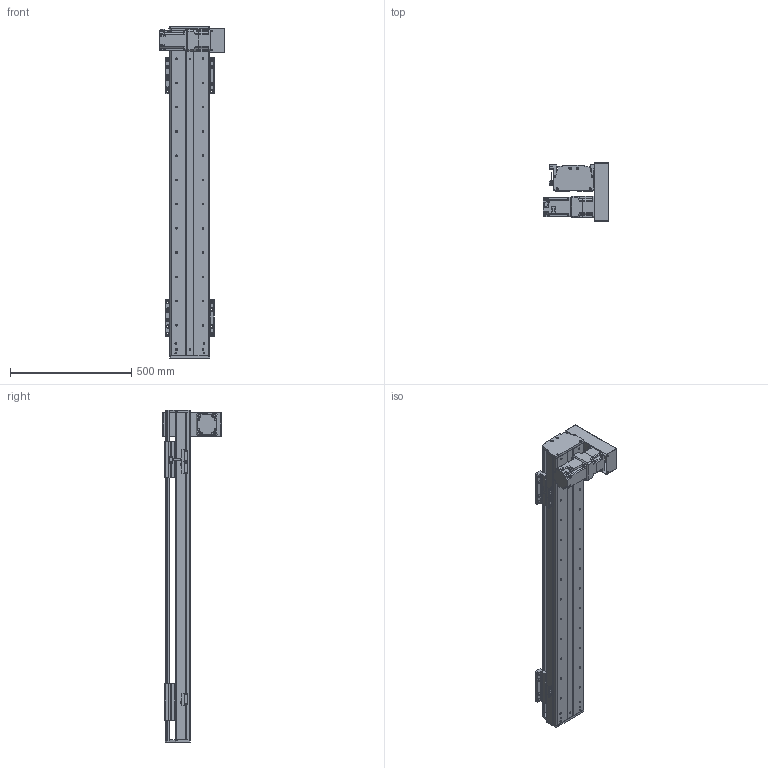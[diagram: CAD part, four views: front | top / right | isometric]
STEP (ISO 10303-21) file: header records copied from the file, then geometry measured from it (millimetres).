
FILE_DESCRIPTION(/* description */ (''),/* implementation_level */ '2;1');
FILE_NAME(/* name */ 'C:\Users\PC\Desktop\3D도면\STEP\새 폴더\DSB165-DR7G-W1000-L.stp',/* time_stamp */ '2018-06-25T15:58:04+09:00',/* author */ ('PC'),/* organization */ (''),/* preprocessor_version */ 'ST-DEVELOPER v16.5',/* originating_system */ 'Autodesk Inventor 2017',/* authorisation */ '');
FILE_SCHEMA (('AUTOMOTIVE_DESIGN { 1 0 10303 214 3 1 1 }'));
Length unit declared in the file: millimetre
Products named in the file (12): DSB165-DL7G-W1000-R_MIR; DSB165-BASE-L_MIR; hg-kr73__MIR; ab0901-p0401300102_MIR; 11-DSB165 BELT COVER_MIR; 12-DSB165-REAR COVER_MIR; 14-DSB165-FRONT COVER_MIR; DSB165-UP COVER_MIR; DSB165-TABLE(MSB20S)_MIR; DSR165-SENSOR DOG_MIR; SENSOR BRACKET(EE-SX674A)_MIR; pm-y65_step_MIR
Assembly tree (16 placements, depth 2):
  DSB165-DL7G-W1000-R_MIR
    DSB165-BASE-L_MIR
    hg-kr73__MIR
    ab0901-p0401300102_MIR
    11-DSB165 BELT COVER_MIR
    12-DSB165-REAR COVER_MIR
    14-DSB165-FRONT COVER_MIR
    DSB165-UP COVER_MIR
    DSB165-TABLE(MSB20S)_MIR  x2
    DSR165-SENSOR DOG_MIR
    pm-y65_step_MIR  x3
    SENSOR BRACKET(EE-SX674A)_MIR  x3
Bounding box: 270 x 242 x 1370 mm (x, y, z)
Volume: 8868122.5 mm3; surface area: 2053037.4 mm2
Topology: 17 solids, 17 shells, 1665 faces, 4474 edges, 2948 vertices
Faces by surface type: plane 921, cylinder 618, cone 114, sphere 8, torus 4
Full cylindrical faces by diameter (mm): 2.459 x20, 3.5 x6, 4.134 x42, 4.5 x18, 5 x27, 5.5 x36, 5.9 x4, 6 x4, 6.6 x14, 6.647 x42, 6.8 x1, 7 x4, 7.6 x4, 8.4 x1, 8.5 x24, 8.7 x1, 9.5 x32, 11 x6, 14 x16, 19 x1, 22 x1, 24 x1, 25 x1, 28 x1, 67 x1, 70 x2, 80 x1
Entity records: 36088 total; most frequent: DIRECTION 6250, CARTESIAN_POINT 6063, ORIENTED_EDGE 5530, EDGE_CURVE 2765, AXIS2_PLACEMENT_3D 2295, VERTEX_POINT 1970, EDGE_LOOP 1727, LINE 1660
